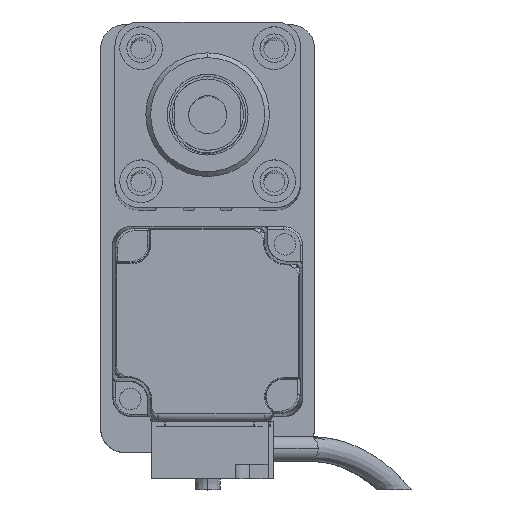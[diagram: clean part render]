
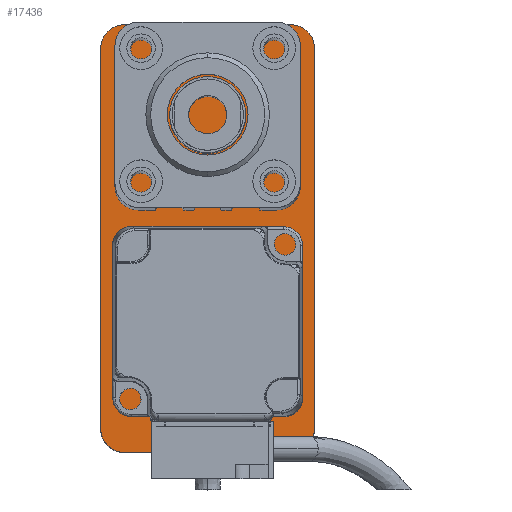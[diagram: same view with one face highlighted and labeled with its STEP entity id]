
A CAD part, top view. The second image highlights one B-rep face of the part: STEP entity #17436.
In plain terms, the highlighted planar face has unit normal (0, 0, 1).
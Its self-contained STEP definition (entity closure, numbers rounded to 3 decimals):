
#490 = DIRECTION ( 'NONE',  ( 1., 0., 0. ) ) ;
#887 = EDGE_CURVE ( 'NONE', #22182, #15301, #12604, .T. ) ;
#2232 = CARTESIAN_POINT ( 'NONE',  ( -17.5, -40., 10. ) ) ;
#2275 = VECTOR ( 'NONE', #12437, 1000. ) ;
#2468 = ORIENTED_EDGE ( 'NONE', *, *, #12170, .T. ) ;
#3207 = DIRECTION ( 'NONE',  ( 0., 0., 1. ) ) ;
#3979 = CIRCLE ( 'NONE', #29038, 5. ) ;
#4051 = ORIENTED_EDGE ( 'NONE', *, *, #4705, .T. ) ;
#4127 = AXIS2_PLACEMENT_3D ( 'NONE', #20237, #13271, #22668 ) ;
#4583 = ORIENTED_EDGE ( 'NONE', *, *, #8829, .T. ) ;
#4705 = EDGE_CURVE ( 'NONE', #25228, #8827, #28870, .T. ) ;
#6438 = CARTESIAN_POINT ( 'NONE',  ( 22.5, -45., 10. ) ) ;
#6881 = DIRECTION ( 'NONE',  ( 0., 0., 1. ) ) ;
#7327 = LINE ( 'NONE', #12536, #2275 ) ;
#7838 = VERTEX_POINT ( 'NONE', #23247 ) ;
#7955 = CARTESIAN_POINT ( 'NONE',  ( 17.5, 40., 10. ) ) ;
#8013 = VERTEX_POINT ( 'NONE', #12913 ) ;
#8389 = DIRECTION ( 'NONE',  ( 1., 0., 0. ) ) ;
#8447 = ORIENTED_EDGE ( 'NONE', *, *, #27919, .T. ) ;
#8461 = AXIS2_PLACEMENT_3D ( 'NONE', #28999, #15179, #12743 ) ;
#8827 = VERTEX_POINT ( 'NONE', #24270 ) ;
#8829 = EDGE_CURVE ( 'NONE', #8827, #13826, #7327, .T. ) ;
#8848 = DIRECTION ( 'NONE',  ( 1., 0., 0. ) ) ;
#9132 = AXIS2_PLACEMENT_3D ( 'NONE', #13169, #22163, #8389 ) ;
#9316 = CARTESIAN_POINT ( 'NONE',  ( 22.5, 40., 10. ) ) ;
#9475 = CARTESIAN_POINT ( 'NONE',  ( -22.5, -45., 10. ) ) ;
#10731 = CARTESIAN_POINT ( 'NONE',  ( 17.5, -45., 10. ) ) ;
#11020 = VECTOR ( 'NONE', #8848, 1000. ) ;
#12170 = EDGE_CURVE ( 'NONE', #15301, #26478, #14950, .T. ) ;
#12183 = EDGE_LOOP ( 'NONE', ( #4583, #23552, #8447, #25065, #29328, #2468, #21874, #4051 ) ) ;
#12437 = DIRECTION ( 'NONE',  ( 0., 1., 0. ) ) ;
#12536 = CARTESIAN_POINT ( 'NONE',  ( 22.5, -45., 10. ) ) ;
#12604 = LINE ( 'NONE', #9475, #18429 ) ;
#12743 = DIRECTION ( 'NONE',  ( 1., 0., 0. ) ) ;
#12913 = CARTESIAN_POINT ( 'NONE',  ( 17.5, 45., 10. ) ) ;
#13169 = CARTESIAN_POINT ( 'NONE',  ( 0., 0., 10. ) ) ;
#13271 = DIRECTION ( 'NONE',  ( 0., 0., 1. ) ) ;
#13826 = VERTEX_POINT ( 'NONE', #9316 ) ;
#14620 = EDGE_CURVE ( 'NONE', #13826, #8013, #3979, .T. ) ;
#14950 = CIRCLE ( 'NONE', #15850, 5. ) ;
#15179 = DIRECTION ( 'NONE',  ( 0., 0., 1. ) ) ;
#15301 = VERTEX_POINT ( 'NONE', #25384 ) ;
#15850 = AXIS2_PLACEMENT_3D ( 'NONE', #2232, #6881, #490 ) ;
#17436 = ADVANCED_FACE ( 'NONE', ( #26649 ), #29311, .T. ) ;
#18291 = LINE ( 'NONE', #6438, #11020 ) ;
#18385 = LINE ( 'NONE', #19488, #25548 ) ;
#18422 = DIRECTION ( 'NONE',  ( 0., -1., 0. ) ) ;
#18429 = VECTOR ( 'NONE', #18422, 1000. ) ;
#19261 = EDGE_CURVE ( 'NONE', #7838, #22182, #24501, .T. ) ;
#19409 = DIRECTION ( 'NONE',  ( 1., 0., 0. ) ) ;
#19488 = CARTESIAN_POINT ( 'NONE',  ( 22.5, 45., 10. ) ) ;
#20237 = CARTESIAN_POINT ( 'NONE',  ( -17.5, 40., 10. ) ) ;
#21174 = EDGE_CURVE ( 'NONE', #26478, #25228, #18291, .T. ) ;
#21814 = DIRECTION ( 'NONE',  ( -1., 0., 0. ) ) ;
#21874 = ORIENTED_EDGE ( 'NONE', *, *, #21174, .T. ) ;
#22163 = DIRECTION ( 'NONE',  ( 0., 0., 1. ) ) ;
#22182 = VERTEX_POINT ( 'NONE', #29168 ) ;
#22395 = CARTESIAN_POINT ( 'NONE',  ( -17.5, -45., 10. ) ) ;
#22668 = DIRECTION ( 'NONE',  ( 1., 0., 0. ) ) ;
#23247 = CARTESIAN_POINT ( 'NONE',  ( -17.5, 45., 10. ) ) ;
#23552 = ORIENTED_EDGE ( 'NONE', *, *, #14620, .T. ) ;
#24270 = CARTESIAN_POINT ( 'NONE',  ( 22.5, -40., 10. ) ) ;
#24501 = CIRCLE ( 'NONE', #4127, 5. ) ;
#25065 = ORIENTED_EDGE ( 'NONE', *, *, #19261, .T. ) ;
#25228 = VERTEX_POINT ( 'NONE', #10731 ) ;
#25384 = CARTESIAN_POINT ( 'NONE',  ( -22.5, -40., 10. ) ) ;
#25548 = VECTOR ( 'NONE', #21814, 1000. ) ;
#26478 = VERTEX_POINT ( 'NONE', #22395 ) ;
#26649 = FACE_OUTER_BOUND ( 'NONE', #12183, .T. ) ;
#27919 = EDGE_CURVE ( 'NONE', #8013, #7838, #18385, .T. ) ;
#28870 = CIRCLE ( 'NONE', #8461, 5. ) ;
#28999 = CARTESIAN_POINT ( 'NONE',  ( 17.5, -40., 10. ) ) ;
#29038 = AXIS2_PLACEMENT_3D ( 'NONE', #7955, #3207, #19409 ) ;
#29168 = CARTESIAN_POINT ( 'NONE',  ( -22.5, 40., 10. ) ) ;
#29311 = PLANE ( 'NONE',  #9132 ) ;
#29328 = ORIENTED_EDGE ( 'NONE', *, *, #887, .T. ) ;
